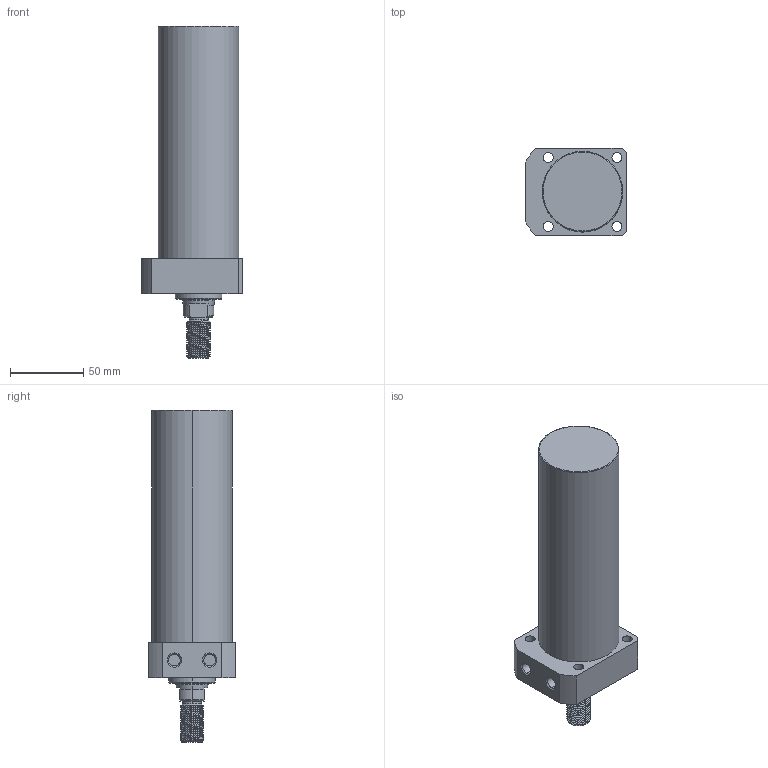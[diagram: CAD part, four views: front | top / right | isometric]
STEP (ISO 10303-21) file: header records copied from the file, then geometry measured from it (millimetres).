
FILE_DESCRIPTION (( 'STEP AP214' ), '1' );
FILE_NAME ('CLLR-055CT-130.STEP', '2020-01-10T00:57:41', ( 'Windows' ), ( 'Microsoft' ), 'SwSTEP 2.0', 'SolidWorks 2015', '' );
FILE_SCHEMA (( 'AUTOMOTIVE_DESIGN' ));
Length unit declared in the file: millimetre
Products named in the file (1): CLLR-055CT-130
Bounding box: 69 x 60 x 227 mm (x, y, z)
Volume: 482439.5 mm3; surface area: 47330.7 mm2
Topology: 1 solids, 1 shells, 101 faces, 259 edges, 168 vertices
Faces by surface type: cylinder 62, plane 20, cone 15, torus 2, bspline 2
Entity records: 5057 total; most frequent: CARTESIAN_POINT 2667, ORIENTED_EDGE 518, DIRECTION 458, EDGE_CURVE 259, AXIS2_PLACEMENT_3D 180, VERTEX_POINT 168, EDGE_LOOP 117, FACE_OUTER_BOUND 101
